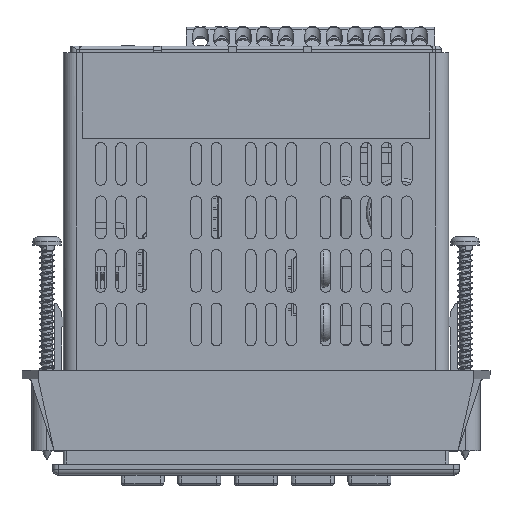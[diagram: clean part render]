
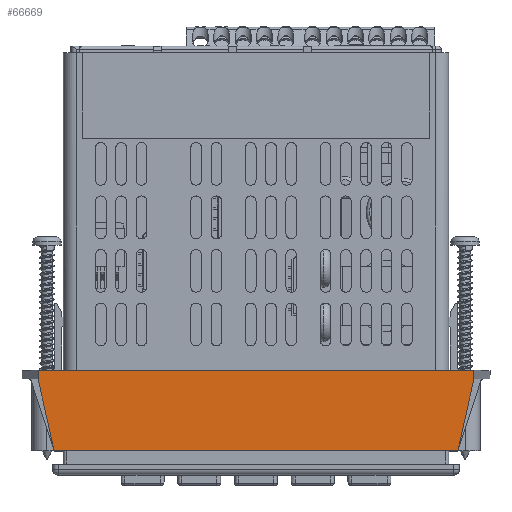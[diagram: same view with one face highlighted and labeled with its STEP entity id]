
A CAD part, top view. The second image highlights one B-rep face of the part: STEP entity #66669.
In plain terms, the highlighted planar face has unit normal (0, 0, 1) as drawn and (1, 0, 0) by its records, which use the part's own axes.
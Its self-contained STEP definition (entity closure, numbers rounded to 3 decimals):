
#3556=PLANE('',#81619);
#24062=ORIENTED_EDGE('',*,*,#33703,.F.);
#24063=ORIENTED_EDGE('',*,*,#33704,.T.);
#24064=ORIENTED_EDGE('',*,*,#33658,.T.);
#24065=ORIENTED_EDGE('',*,*,#33706,.F.);
#24066=ORIENTED_EDGE('',*,*,#33699,.F.);
#24067=ORIENTED_EDGE('',*,*,#33667,.F.);
#33658=EDGE_CURVE('',#39924,#39923,#46865,.T.);
#33667=EDGE_CURVE('',#39932,#39933,#46873,.T.);
#33699=EDGE_CURVE('',#39933,#39959,#46902,.T.);
#33703=EDGE_CURVE('',#39961,#39932,#46906,.T.);
#33704=EDGE_CURVE('',#39961,#39924,#46907,.T.);
#33706=EDGE_CURVE('',#39959,#39923,#46909,.T.);
#39923=VERTEX_POINT('',#147824);
#39924=VERTEX_POINT('',#147826);
#39932=VERTEX_POINT('',#147843);
#39933=VERTEX_POINT('',#147845);
#39959=VERTEX_POINT('',#147907);
#39961=VERTEX_POINT('',#147913);
#46865=LINE('',#147825,#53871);
#46873=LINE('',#147844,#53879);
#46902=LINE('',#147906,#53908);
#46906=LINE('',#147914,#53912);
#46907=LINE('',#147916,#53913);
#46909=LINE('',#147919,#53915);
#53871=VECTOR('',#97462,1000.);
#53879=VECTOR('',#97474,1000.);
#53908=VECTOR('',#97517,1000.);
#53912=VECTOR('',#97523,1000.);
#53913=VECTOR('',#97526,1000.);
#53915=VECTOR('',#97530,1000.);
#58252=EDGE_LOOP('',(#24062,#24063,#24064,#24065,#24066,#24067));
#62558=FACE_BOUND('',#58252,.T.);
#66669=ADVANCED_FACE('',(#62558),#3556,.F.);
#81619=AXIS2_PLACEMENT_3D('',#147918,#97528,#97529);
#97462=DIRECTION('',(0.,0.,1.));
#97474=DIRECTION('',(0.,0.,1.));
#97517=DIRECTION('',(0.,0.976,0.218));
#97523=DIRECTION('',(0.,-0.976,0.218));
#97526=DIRECTION('',(0.,1.,0.));
#97528=DIRECTION('',(-1.,0.,0.));
#97529=DIRECTION('',(0.,0.,1.));
#97530=DIRECTION('',(0.,1.,0.));
#147824=CARTESIAN_POINT('',(24.422,0.,51.727));
#147825=CARTESIAN_POINT('',(24.422,0.,-47.917));
#147826=CARTESIAN_POINT('',(24.422,0.,-51.727));
#147843=CARTESIAN_POINT('',(24.422,-19.05,-47.917));
#147844=CARTESIAN_POINT('',(24.422,-19.05,-47.917));
#147845=CARTESIAN_POINT('',(24.422,-19.05,47.917));
#147906=CARTESIAN_POINT('',(24.422,-19.05,47.917));
#147907=CARTESIAN_POINT('',(24.422,-1.981,51.727));
#147913=CARTESIAN_POINT('',(24.422,-1.981,-51.727));
#147914=CARTESIAN_POINT('',(24.422,-1.981,-51.727));
#147916=CARTESIAN_POINT('',(24.422,-1.981,-51.727));
#147918=CARTESIAN_POINT('',(24.422,-19.05,-47.917));
#147919=CARTESIAN_POINT('',(24.422,-1.981,51.727));
